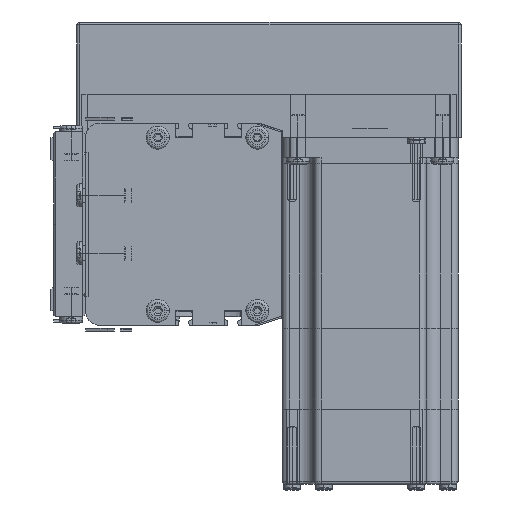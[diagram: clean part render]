
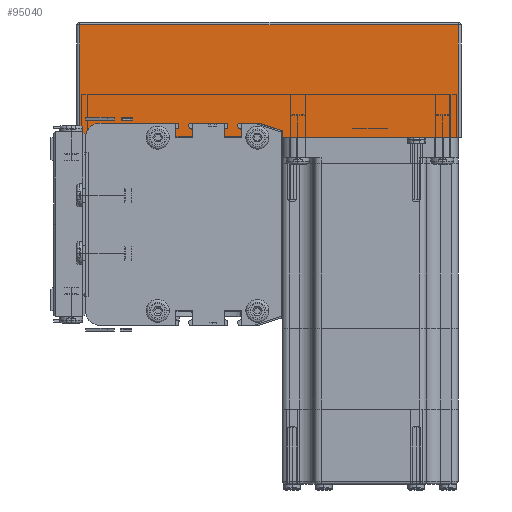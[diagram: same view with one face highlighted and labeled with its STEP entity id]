
A CAD part, left-side view. The second image highlights one B-rep face of the part: STEP entity #95040.
In plain terms, the highlighted planar face has unit normal (-1, 0, 0) as drawn and (0, 1, 0) by its records, which use the part's own axes.
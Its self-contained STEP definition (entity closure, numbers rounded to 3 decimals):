
#13447 = CARTESIAN_POINT ( 'NONE',  ( 132., 62., 0. ) ) ;
#14356 = DIRECTION ( 'NONE',  ( 0., 0., 1. ) ) ;
#14357 = VECTOR ( 'NONE', #14356, 1000. ) ;
#14358 = CARTESIAN_POINT ( 'NONE',  ( 1., 62., 40. ) ) ;
#14361 = DIRECTION ( 'NONE',  ( 0., 0., -1. ) ) ;
#14362 = VECTOR ( 'NONE', #14361, 1000. ) ;
#14363 = CARTESIAN_POINT ( 'NONE',  ( 132., 62., 40. ) ) ;
#14370 = LINE ( 'NONE', #14363, #14362 ) ;
#14380 = LINE ( 'NONE', #14358, #14357 ) ;
#14592 = CARTESIAN_POINT ( 'NONE',  ( 132., 62., 39. ) ) ;
#14640 = DIRECTION ( 'NONE',  ( -1., 0., 0. ) ) ;
#14641 = VECTOR ( 'NONE', #14640, 1000. ) ;
#14642 = CARTESIAN_POINT ( 'NONE',  ( 0., 62., 0. ) ) ;
#14643 = LINE ( 'NONE', #14642, #14641 ) ;
#14654 = CARTESIAN_POINT ( 'NONE',  ( 1., 62., 0. ) ) ;
#18440 = DIRECTION ( 'NONE',  ( 0., 0., -1. ) ) ;
#18441 = DIRECTION ( 'NONE',  ( 0., -1., 0. ) ) ;
#18443 = CARTESIAN_POINT ( 'NONE',  ( 0., 62., 40. ) ) ;
#18466 = DIRECTION ( 'NONE',  ( 1., 0., 0. ) ) ;
#18469 = AXIS2_PLACEMENT_3D ( 'NONE', #18443, #18441, #18440 ) ;
#18488 = VECTOR ( 'NONE', #18466, 1000. ) ;
#18490 = CARTESIAN_POINT ( 'NONE',  ( 0., 62., 39. ) ) ;
#18492 = LINE ( 'NONE', #18490, #18488 ) ;
#18494 = FACE_OUTER_BOUND ( 'NONE', #95041, .T. ) ;
#18502 = CARTESIAN_POINT ( 'NONE',  ( 1., 62., 39. ) ) ;
#18524 = PLANE ( 'NONE',  #18469 ) ;
#94571 = VERTEX_POINT ( 'NONE', #13447 ) ;
#94849 = VERTEX_POINT ( 'NONE', #14592 ) ;
#94859 = EDGE_CURVE ( 'NONE', #94571, #94905, #14643, .T. ) ;
#94905 = VERTEX_POINT ( 'NONE', #14654 ) ;
#94975 = ORIENTED_EDGE ( 'NONE', *, *, #94977, .T. ) ;
#94976 = ORIENTED_EDGE ( 'NONE', *, *, #95039, .T. ) ;
#94977 = EDGE_CURVE ( 'NONE', #94849, #94571, #14370, .T. ) ;
#94978 = EDGE_CURVE ( 'NONE', #94905, #95035, #14380, .T. ) ;
#94979 = ORIENTED_EDGE ( 'NONE', *, *, #94859, .T. ) ;
#94988 = ORIENTED_EDGE ( 'NONE', *, *, #94978, .T. ) ;
#95035 = VERTEX_POINT ( 'NONE', #18502 ) ;
#95039 = EDGE_CURVE ( 'NONE', #95035, #94849, #18492, .T. ) ;
#95040 = ADVANCED_FACE ( 'NONE', ( #18494 ), #18524, .F. ) ;
#95041 = EDGE_LOOP ( 'NONE', ( #94976, #94975, #94979, #94988 ) ) ;
